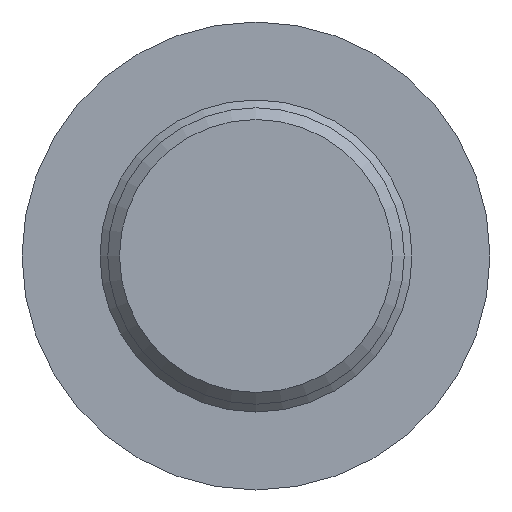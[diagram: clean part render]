
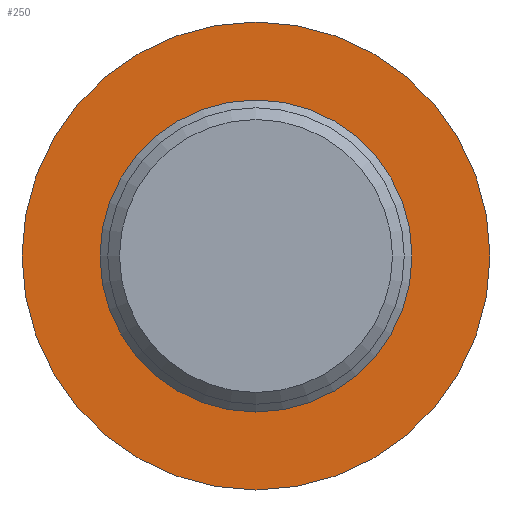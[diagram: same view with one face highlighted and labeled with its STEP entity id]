
A CAD part, front view. The second image highlights one B-rep face of the part: STEP entity #250.
In plain terms, the highlighted planar face has unit normal (0, -1, 0).
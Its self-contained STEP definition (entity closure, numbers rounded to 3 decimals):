
#17=FACE_BOUND('',#61,.T.);
#30=PLANE('',#303);
#43=FACE_OUTER_BOUND('',#60,.T.);
#60=EDGE_LOOP('',(#214,#215));
#61=EDGE_LOOP('',(#216,#217));
#100=CIRCLE('',#301,4.);
#101=CIRCLE('',#302,4.);
#102=CIRCLE('',#304,6.);
#103=CIRCLE('',#305,6.);
#126=VERTEX_POINT('',#456);
#127=VERTEX_POINT('',#457);
#128=VERTEX_POINT('',#462);
#129=VERTEX_POINT('',#463);
#157=EDGE_CURVE('',#126,#127,#100,.T.);
#158=EDGE_CURVE('',#127,#126,#101,.T.);
#160=EDGE_CURVE('',#128,#129,#102,.T.);
#161=EDGE_CURVE('',#129,#128,#103,.T.);
#214=ORIENTED_EDGE('',*,*,#160,.F.);
#215=ORIENTED_EDGE('',*,*,#161,.F.);
#216=ORIENTED_EDGE('',*,*,#157,.T.);
#217=ORIENTED_EDGE('',*,*,#158,.T.);
#250=ADVANCED_FACE('',(#43,#17),#30,.T.);
#301=AXIS2_PLACEMENT_3D('',#458,#375,#376);
#302=AXIS2_PLACEMENT_3D('',#459,#377,#378);
#303=AXIS2_PLACEMENT_3D('',#461,#380,#381);
#304=AXIS2_PLACEMENT_3D('',#464,#382,#383);
#305=AXIS2_PLACEMENT_3D('',#465,#384,#385);
#375=DIRECTION('center_axis',(0.,1.,0.));
#376=DIRECTION('ref_axis',(1.,0.,0.));
#377=DIRECTION('center_axis',(0.,1.,0.));
#378=DIRECTION('ref_axis',(1.,0.,0.));
#380=DIRECTION('center_axis',(0.,-1.,0.));
#381=DIRECTION('ref_axis',(0.,0.,-1.));
#382=DIRECTION('center_axis',(0.,1.,0.));
#383=DIRECTION('ref_axis',(1.,0.,0.));
#384=DIRECTION('center_axis',(0.,1.,0.));
#385=DIRECTION('ref_axis',(1.,0.,0.));
#456=CARTESIAN_POINT('',(0.,-990.,4.));
#457=CARTESIAN_POINT('',(0.,-990.,-4.));
#458=CARTESIAN_POINT('Origin',(0.,-990.,0.));
#459=CARTESIAN_POINT('Origin',(0.,-990.,0.));
#461=CARTESIAN_POINT('Origin',(0.,-990.,6.));
#462=CARTESIAN_POINT('',(0.,-990.,6.));
#463=CARTESIAN_POINT('',(0.,-990.,-6.));
#464=CARTESIAN_POINT('Origin',(0.,-990.,0.));
#465=CARTESIAN_POINT('Origin',(0.,-990.,0.));
